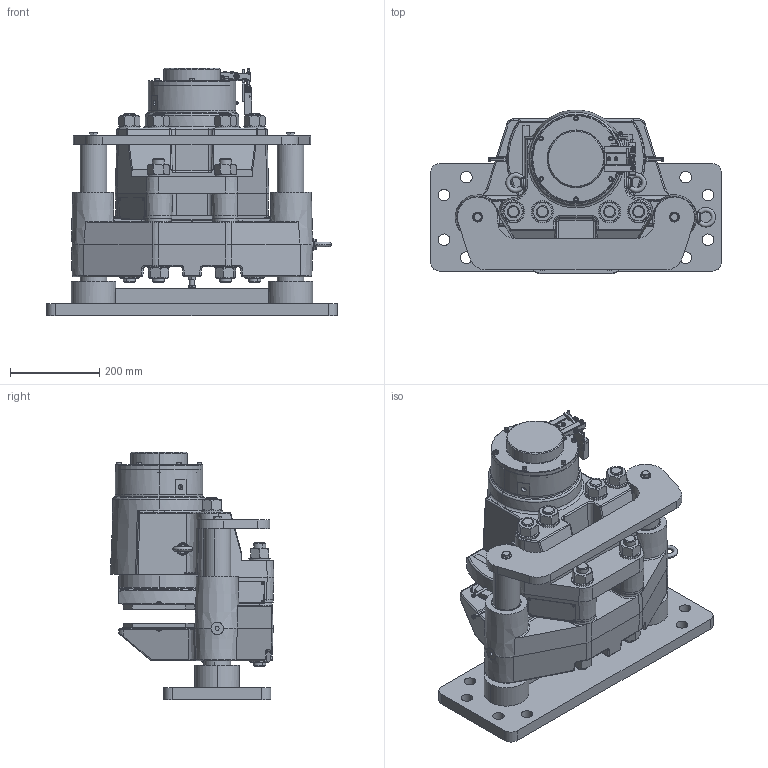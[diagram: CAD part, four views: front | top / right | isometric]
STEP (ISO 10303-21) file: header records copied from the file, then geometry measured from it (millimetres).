
FILE_DESCRIPTION((''),'2;1');
FILE_NAME('HS_145_FHM-270R-V','2020-10-09T',('BOLS'),(''),'CREO PARAMETRIC BY PTC INC, 2018360','CREO PARAMETRIC BY PTC INC, 2018360','');
FILE_SCHEMA(('CONFIG_CONTROL_DESIGN'));
Products named in the file (1): HS_145_FHM-270R-V
Bounding box: 650 x 366.19 x 553.3 mm (x, y, z)
Volume: 30950418.2 mm3; surface area: 2390014.3 mm2
Topology: 4 solids, 70 shells, 2837 faces, 6832 edges, 4203 vertices
Faces by surface type: plane 1007, cylinder 867, cone 578, torus 182, bspline 164, sphere 35, revolution 4
Entity records: 125985 total; most frequent: CARTESIAN_POINT 40775, DIRECTION 13652, ORIENTED_EDGE 13410, PRESENTATION_STYLE_ASSIGNMENT 6709, STYLED_ITEM 6709, CURVE_STYLE 6705, EDGE_CURVE 6705, AXIS2_PLACEMENT_3D 5465
